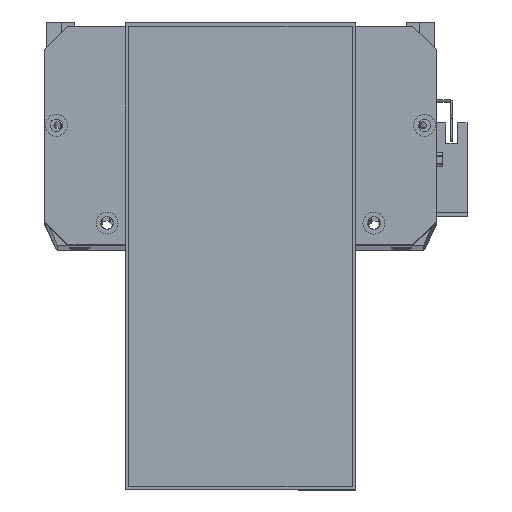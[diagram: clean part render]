
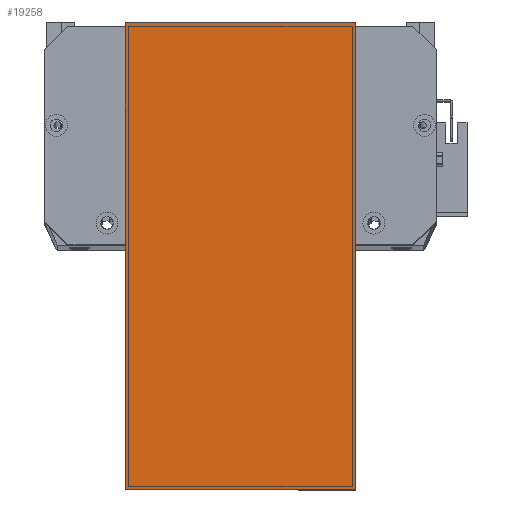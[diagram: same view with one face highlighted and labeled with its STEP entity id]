
A CAD part, top view. The second image highlights one B-rep face of the part: STEP entity #19258.
In plain terms, the highlighted planar face has unit normal (0, 0, 1) as drawn and (0, 0, -1) by its records, which use the part's own axes.
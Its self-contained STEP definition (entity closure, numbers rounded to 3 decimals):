
#747 = VERTEX_POINT ( 'NONE', #3802 ) ;
#1237 = DIRECTION ( 'NONE',  ( 0., 1., 0. ) ) ;
#1525 = VECTOR ( 'NONE', #10889, 1000. ) ;
#3802 = CARTESIAN_POINT ( 'NONE',  ( 0., 19.5, 0. ) ) ;
#4024 = CARTESIAN_POINT ( 'NONE',  ( 0., 0., 0. ) ) ;
#8706 = PLANE ( 'NONE',  #29190 ) ;
#8730 = EDGE_CURVE ( 'NONE', #20657, #747, #20640, .T. ) ;
#10889 = DIRECTION ( 'NONE',  ( 0., -1., 0. ) ) ;
#11019 = CARTESIAN_POINT ( 'NONE',  ( 0., 0., 0. ) ) ;
#12849 = CARTESIAN_POINT ( 'NONE',  ( 203., 0., 0. ) ) ;
#13321 = DIRECTION ( 'NONE',  ( -1., 0., 0. ) ) ;
#13531 = EDGE_CURVE ( 'NONE', #22422, #23358, #19753, .T. ) ;
#13632 = VECTOR ( 'NONE', #1237, 1000. ) ;
#15014 = DIRECTION ( 'NONE',  ( 1., 0., 0. ) ) ;
#15176 = CARTESIAN_POINT ( 'NONE',  ( 0., 119.5, 0. ) ) ;
#17272 = LINE ( 'NONE', #28813, #17986 ) ;
#17297 = ORIENTED_EDGE ( 'NONE', *, *, #21790, .T. ) ;
#17359 = LINE ( 'NONE', #29868, #29604 ) ;
#17929 = ORIENTED_EDGE ( 'NONE', *, *, #8730, .F. ) ;
#17986 = VECTOR ( 'NONE', #15014, 1000. ) ;
#18405 = DIRECTION ( 'NONE',  ( 1., 0., 0. ) ) ;
#18643 = CARTESIAN_POINT ( 'NONE',  ( 203., 119.5, 0. ) ) ;
#18835 = ORIENTED_EDGE ( 'NONE', *, *, #20423, .F. ) ;
#19258 = ADVANCED_FACE ( 'NONE', ( #22454 ), #8706, .T. ) ;
#19753 = LINE ( 'NONE', #12849, #13632 ) ;
#20423 = EDGE_CURVE ( 'NONE', #747, #22422, #17359, .T. ) ;
#20640 = LINE ( 'NONE', #4024, #1525 ) ;
#20657 = VERTEX_POINT ( 'NONE', #15176 ) ;
#21790 = EDGE_CURVE ( 'NONE', #20657, #23358, #17272, .T. ) ;
#22422 = VERTEX_POINT ( 'NONE', #28779 ) ;
#22424 = ORIENTED_EDGE ( 'NONE', *, *, #13531, .F. ) ;
#22454 = FACE_OUTER_BOUND ( 'NONE', #24841, .T. ) ;
#23358 = VERTEX_POINT ( 'NONE', #18643 ) ;
#24841 = EDGE_LOOP ( 'NONE', ( #18835, #17929, #17297, #22424 ) ) ;
#27094 = DIRECTION ( 'NONE',  ( 0., 0., -1. ) ) ;
#28779 = CARTESIAN_POINT ( 'NONE',  ( 203., 19.5, 0. ) ) ;
#28813 = CARTESIAN_POINT ( 'NONE',  ( -12., 119.5, 0. ) ) ;
#29190 = AXIS2_PLACEMENT_3D ( 'NONE', #11019, #27094, #13321 ) ;
#29604 = VECTOR ( 'NONE', #18405, 1000. ) ;
#29868 = CARTESIAN_POINT ( 'NONE',  ( -12., 19.5, 0. ) ) ;
